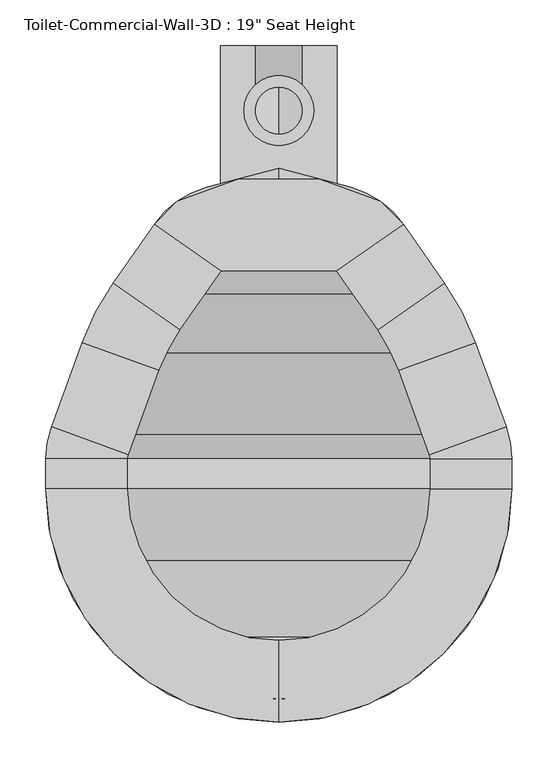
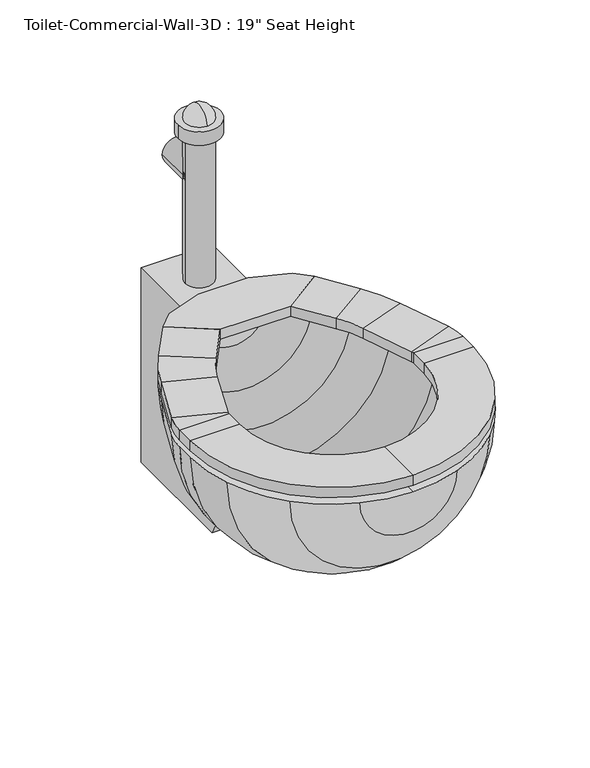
"""IFC4 building model written with IfcOpenShell, lengths in millimetres: flow terminal geometry."""

import ifcopenshell
import ifcopenshell.guid

model = None  # the IFC model being written
_history = None  # IfcOwnerHistory: only IFC2X3 demands one
_inside = {}  # id of a spatial element -> (the spatial element, [elements in it])
_under = {}  # id of a project, library or spatial element -> (it, [spatial elements below it])
_declared = {}  # id of a project -> (the project, [libraries it declares])
_typed = {}  # id of a type object -> (the type object, [elements of that type])
_made_of = {}  # id of a material, layer set ... -> (it, [elements and type objects made of it])


def new_model(schema):
    """Start an empty IFC model of exactly this schema.

    Asked for "IFC4X3", IfcOpenShell would pick the latest addendum, in which some entities
    have other attributes; the version numbers below select the first issue.
    IFC2X3 requires an IfcOwnerHistory on every rooted entity: one is made here for all.
    """
    global model, _history
    if schema == "IFC4X3":
        model = ifcopenshell.file(schema_version=(4, 3, 0, 0))
    else:
        model = ifcopenshell.file(schema=schema)
    _inside.clear()
    _under.clear()
    _declared.clear()
    _typed.clear()
    _made_of.clear()
    _history = None
    if model.schema == "IFC2X3":
        org = make("IfcOrganization", Name="unknown")
        user = make(
            "IfcPersonAndOrganization",
            ThePerson=make("IfcPerson", FamilyName="unknown"),
            TheOrganization=org,
        )
        app = make(
            "IfcApplication",
            ApplicationDeveloper=org,
            Version="unknown",
            ApplicationFullName="unknown",
            ApplicationIdentifier="unknown",
        )
        _history = make(
            "IfcOwnerHistory",
            OwningUser=user,
            OwningApplication=app,
            ChangeAction="ADDED",
            CreationDate=0,
        )
    return model


def make(cls, **values):
    """One entity of the class cls with the attributes given. An attribute that is None is left unset."""
    return model.create_entity(
        cls, **{name: value for name, value in values.items() if value is not None}
    )


def rooted(cls, **values):
    """An entity with a GlobalId (a new one), such as an element, a storey or a relation."""
    return make(cls, GlobalId=ifcopenshell.guid.new(), OwnerHistory=_history, **values)


def si_unit(unit_type, name, prefix=None):
    """IfcSIUnit, for example si_unit("LENGTHUNIT", "METRE", prefix="MILLI")."""
    return make("IfcSIUnit", UnitType=unit_type, Prefix=prefix, Name=name)


def assignment(units):
    """IfcUnitAssignment: the units of a project."""
    return None if units is None else make("IfcUnitAssignment", Units=units)


def point(xyz):
    """IfcCartesianPoint."""
    return None if xyz is None else make("IfcCartesianPoint", Coordinates=xyz)


def direction(xyz):
    """IfcDirection."""
    return None if xyz is None else make("IfcDirection", DirectionRatios=xyz)


def frame(location, z_axis=None, x_axis=None):
    """IfcAxis2Placement3D, a coordinate frame: its origin and axes. An axis left out is left unset."""
    return make(
        "IfcAxis2Placement3D",
        Location=point(location),
        Axis=direction(z_axis),
        RefDirection=direction(x_axis),
    )


def frame_2d(location, x_axis=None):
    """IfcAxis2Placement2D, a coordinate frame in the plane: its origin and x axis."""
    return make(
        "IfcAxis2Placement2D", Location=point(location), RefDirection=direction(x_axis)
    )


def origin():
    """The frame at (0, 0, 0) with its axes left unset."""
    return frame((0.0, 0.0, 0.0))


def place(relative_to, where):
    """IfcLocalPlacement: puts the frame where relative to a parent placement (None: the world)."""
    return make(
        "IfcLocalPlacement", PlacementRelTo=relative_to, RelativePlacement=where
    )


def context(
    kind, dimensions, precision=None, world=None, true_north=None, identifier=None
):
    """IfcGeometricRepresentationContext, for example the 3D "Model" context."""
    return make(
        "IfcGeometricRepresentationContext",
        ContextIdentifier=identifier,
        ContextType=kind,
        CoordinateSpaceDimension=dimensions,
        Precision=precision,
        WorldCoordinateSystem=world,
        TrueNorth=true_north,
    )


def project(units=None, contexts=None):
    """IfcProject with its units and contexts."""
    return rooted(
        "IfcProject",
        Name="project",
        RepresentationContexts=contexts,
        UnitsInContext=assignment(units),
    )


def spatial(cls, under=None, at=None, **own):
    """A site, building, storey or space (cls), placed at a placement, below another one or the project."""
    s = rooted(cls, ObjectPlacement=at, **own)
    if under is not None:
        _under.setdefault(under.id(), (under, []))[1].append(s)
    return s


def polyline(points):
    """IfcPolyline through the points."""
    return make("IfcPolyline", Points=[point(p) for p in points])


def circle_curve(where, radius):
    """IfcCircle in the frame where."""
    return make("IfcCircle", Position=where, Radius=radius)


def ellipse_curve(where, semi_axis1, semi_axis2):
    """IfcEllipse in the frame where."""
    return make(
        "IfcEllipse", Position=where, SemiAxis1=semi_axis1, SemiAxis2=semi_axis2
    )


def trimmed(basis, trim1, trim2, sense, master):
    """IfcTrimmedCurve: the piece of a basis curve between two trims."""
    return make(
        "IfcTrimmedCurve",
        BasisCurve=basis,
        Trim1=trim1,
        Trim2=trim2,
        SenseAgreement=sense,
        MasterRepresentation=master,
    )


def segment(curve, same_sense, transition):
    """IfcCompositeCurveSegment."""
    return make(
        "IfcCompositeCurveSegment",
        Transition=transition,
        SameSense=same_sense,
        ParentCurve=curve,
    )


def composite_curve(segments, self_intersect=None):
    """IfcCompositeCurve: segments joined end to end."""
    return make("IfcCompositeCurve", Segments=segments, SelfIntersect=self_intersect)


def outline(outer, holes=None, kind="AREA"):
    """IfcArbitraryClosedProfileDef: a profile drawn as a closed curve; with holes, ...WithVoids."""
    if holes is None:
        return make("IfcArbitraryClosedProfileDef", ProfileType=kind, OuterCurve=outer)
    return make(
        "IfcArbitraryProfileDefWithVoids",
        ProfileType=kind,
        OuterCurve=outer,
        InnerCurves=holes,
    )


def extrude(swept, where, along, depth):
    """IfcExtrudedAreaSolid: the profile swept, set in the frame where, extruded along a direction by depth."""
    return make(
        "IfcExtrudedAreaSolid",
        SweptArea=swept,
        Position=where,
        ExtrudedDirection=direction(along),
        Depth=depth,
    )


def shape(context_of_items, identifier, shape_type, items):
    """IfcShapeRepresentation: the items that make up one representation, for example the "Body"."""
    return make(
        "IfcShapeRepresentation",
        ContextOfItems=context_of_items,
        RepresentationIdentifier=identifier,
        RepresentationType=shape_type,
        Items=items,
    )


def source(mapping_origin, context_of_items, identifier, shape_type, items):
    """IfcRepresentationMap: a shape defined once, which mapped items show again and again."""
    return make(
        "IfcRepresentationMap",
        MappingOrigin=mapping_origin,
        MappedRepresentation=shape(context_of_items, identifier, shape_type, items),
    )


def transform(
    local_origin,
    x_axis=None,
    y_axis=None,
    z_axis=None,
    scale=None,
    scale2=None,
    scale3=None,
    uniform=True,
):
    """IfcCartesianTransformationOperator3D, or its non-uniform kind. x_axis, y_axis, z_axis: its Axis1, 2, 3."""
    if uniform:
        return make(
            "IfcCartesianTransformationOperator3D",
            Axis1=direction(x_axis),
            Axis2=direction(y_axis),
            LocalOrigin=point(local_origin),
            Scale=scale,
            Axis3=direction(z_axis),
        )
    return make(
        "IfcCartesianTransformationOperator3DnonUniform",
        Axis1=direction(x_axis),
        Axis2=direction(y_axis),
        LocalOrigin=point(local_origin),
        Scale=scale,
        Axis3=direction(z_axis),
        Scale2=scale2,
        Scale3=scale3,
    )


def mapped(mapping_source, mapping_target):
    """IfcMappedItem: shows the shape of a source again, moved by a transform."""
    return make(
        "IfcMappedItem", MappingSource=mapping_source, MappingTarget=mapping_target
    )


def made_of(thing, what):
    """Note that an element or type object is made of a material, layer set ...; save() writes the relation."""
    if what is not None:
        _made_of.setdefault(what.id(), (what, []))[1].append(thing)
    return thing


def element(
    cls,
    number,
    at=None,
    inside=None,
    cuts=None,
    type_object=None,
    material=None,
    context=None,
    identifier="Body",
    shape_type=None,
    held_by="IfcProductDefinitionShape",
    body=None,
    shapes=None,
    **own,
):
    """One element of the class cls, such as IfcWall. Its Tag is "e" and its number.

    at: its placement. inside: the storey or other place that contains it. cuts: it is an
    opening in that element (IfcRelVoidsElement). A single representation is given by context,
    identifier, shape_type and body (its items); several are given by shapes. held_by: the class
    of the entity that holds the representations. save() writes the other relations.
    """
    e = rooted(cls, Tag="e%d" % number, ObjectPlacement=at, **own)
    if body is not None:
        shapes = [shape(context, identifier, shape_type, body)]
    if shapes is not None:
        e.Representation = make(held_by, Representations=shapes)
    if inside is not None:
        _inside.setdefault(inside.id(), (inside, []))[1].append(e)
    if cuts is not None:
        rooted(
            "IfcRelVoidsElement", RelatingBuildingElement=cuts, RelatedOpeningElement=e
        )
    if type_object is not None:
        _typed.setdefault(type_object.id(), (type_object, []))[1].append(e)
    return made_of(e, material)


def aggregate(whole, parts):
    """IfcRelAggregates: a whole, such as a stair, and the parts it consists of."""
    return rooted("IfcRelAggregates", RelatingObject=whole, RelatedObjects=parts)


def save(model, path):
    """Write the relations noted so far, then the file.

    IfcRelAggregates (storeys below a building ...), IfcRelContainedInSpatialStructure (elements
    in a storey), IfcRelDefinesByType, IfcRelAssociatesMaterial and IfcRelDeclares: one each for
    every whole, place, type object, material and project.
    """
    for whole, parts in _under.values():
        aggregate(whole, parts)
    for where, things in _inside.values():
        rooted(
            "IfcRelContainedInSpatialStructure",
            RelatedElements=things,
            RelatingStructure=where,
        )
    for kind, things in _typed.values():
        rooted("IfcRelDefinesByType", RelatedObjects=things, RelatingType=kind)
    for what, things in _made_of.values():
        rooted("IfcRelAssociatesMaterial", RelatedObjects=things, RelatingMaterial=what)
    for by, libraries in _declared.values():
        rooted("IfcRelDeclares", RelatingContext=by, RelatedDefinitions=libraries)
    model.write(path)


def plane_surface(at):
    """IfcPlane: the flat surface through the origin of the frame at, square to its z axis."""
    return make("IfcPlane", Position=at)


def cylinder_surface(at, radius):
    """IfcCylindricalSurface: all points at the distance radius from the z axis of the frame at."""
    return make("IfcCylindricalSurface", Position=at, Radius=radius)


def revolved_surface(curve, axis_point, axis_direction):
    """IfcSurfaceOfRevolution: the curve turned about the line through axis_point along axis_direction."""
    return make(
        "IfcSurfaceOfRevolution",
        SweptCurve=make("IfcArbitraryOpenProfileDef", ProfileType="CURVE", Curve=curve),
        AxisPosition=make("IfcAxis1Placement", Location=point(axis_point), Axis=direction(axis_direction)),
    )


def advanced_brep(points, edges, surfaces, faces):
    """IfcAdvancedBrep: a solid bounded by faces that lie on surfaces and meet in shared edges.

    An edge is (start, end): straight between two places in points (the first is 0);
    or (start, end, curve); or (start, end, curve, False) where it runs against its curve.
    A face is (place in surfaces, loops), or (place, loops, False) where it looks against
    its surface's normal. A loop lists edges by number (the first is 1), with a minus sign
    where the edge is run from its end to its start. The first loop is the outer one.
    """
    corners = [point(p) for p in points]
    vertices = [make("IfcVertexPoint", VertexGeometry=c) for c in corners]
    made = []
    for start, end, *more in edges:
        made.append(
            make(
                "IfcEdgeCurve",
                EdgeStart=vertices[start],
                EdgeEnd=vertices[end],
                EdgeGeometry=more[0] if more else make("IfcPolyline", Points=[corners[start], corners[end]]),
                SameSense=more[1] if len(more) > 1 else True,
            )
        )
    hull = []
    for where, loops, *sense in faces:
        bounds = []
        for j, loop in enumerate(loops):
            ring = [make("IfcOrientedEdge", EdgeElement=made[abs(k) - 1], Orientation=k > 0) for k in loop]
            bounds.append(
                make(
                    "IfcFaceOuterBound" if j == 0 else "IfcFaceBound",
                    Bound=make("IfcEdgeLoop", EdgeList=ring),
                    Orientation=True,
                )
            )
        hull.append(make("IfcAdvancedFace", Bounds=bounds, FaceSurface=surfaces[where], SameSense=sense[0] if sense else True))
    return make("IfcAdvancedBrep", Outer=make("IfcClosedShell", CfsFaces=hull))


def flow_terminal_8339c4de(model_context):
    return source(origin(), model_context, "Body", "SolidModel", [
        extrude(outline(polyline([(467.7541169, -397.4347495), (342.0521907, -397.4347495), (269.229574, -346.4438043), (294.1800557, -321.4933226), (360.2423986, -297.4485961), (449.563909, -297.4485961), (515.6262519, -321.4933226), (540.5767337, -346.4438043), (467.7541169, -397.4347495)])), frame((0.0, 0.0, 457.2), z_axis=(0.0, 0.0, 1.0), x_axis=(1.0, 0.0, 0.0)), (0.0, 0.0, 1.0), 19.05),
        advanced_brep(
        [(467.7541169, -397.4347495, 457.2), (467.7541169, -397.4347495, 476.25), (540.5767337, -346.4438043, 476.25), (540.5767337, -346.4438043, 457.2), (585.6810159, -410.8593951, 457.2), (512.8583992, -461.8503403, 457.2), (585.6810159, -410.8593951, 476.25), (512.8583992, -461.8503403, 476.25), (619.360053, -475.5562234, 457.2), (535.821379, -505.9618141, 457.2), (619.360053, -475.5562234, 476.25), (535.821379, -505.9618141, 476.25), (652.7759241, -567.3655747, 457.2), (569.2372501, -597.7711654, 457.2), (652.7759241, -567.3655747, 476.25), (569.2372501, -597.7711654, 476.25), (658.9031538, -602.1148212, 457.2), (570.0031538, -602.1148212, 457.2), (658.9031538, -602.1148212, 476.25), (570.0031538, -602.1148212, 476.25), (658.9031538, -635.0, 457.2), (570.0031538, -635.0, 457.2), (658.9031538, -635.0, 476.25), (570.0031538, -635.0, 476.25), (404.9031538, -889.0, 457.2), (404.9031538, -800.1, 457.2), (404.9031538, -889.0, 476.25), (404.9031538, -800.1, 476.25), (150.9031538, -635.0, 457.2), (239.8031538, -635.0, 457.2), (150.9031538, -635.0, 476.25), (239.8031538, -635.0, 476.25), (150.9031538, -602.1148212, 457.2), (239.8031538, -602.1148212, 457.2), (150.9031538, -602.1148212, 476.25), (239.8031538, -602.1148212, 476.25), (157.0303835, -567.3655747, 457.2), (240.5690575, -597.7711654, 457.2), (157.0303835, -567.3655747, 476.25), (240.5690575, -597.7711654, 476.25), (190.4462546, -475.5562234, 457.2), (273.9849286, -505.9618141, 457.2), (190.4462546, -475.5562234, 476.25), (273.9849286, -505.9618141, 476.25), (224.1252917, -410.8593951, 457.2), (296.9479084, -461.8503403, 457.2), (224.1252917, -410.8593951, 476.25), (296.9479084, -461.8503403, 476.25), (342.0521907, -397.4347495, 457.2), (269.229574, -346.4438043, 457.2), (269.229574, -346.4438043, 476.25), (342.0521907, -397.4347495, 476.25)],
        [
            (0, 1),
            (1, 2),
            (2, 3),
            (3, 0),
            (3, 4),
            (4, 5),
            (5, 0),
            (2, 6),
            (6, 4),
            (1, 7),
            (7, 6),
            (5, 7),
            (8, 9),
            (9, 5, circle_curve(frame((356.8099347, -571.1166514, 457.2), z_axis=(0.0, 0.0, 1.0), x_axis=(0.81915204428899, 0.5735764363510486, 0.0)), 190.5)),
            (4, 8, circle_curve(frame((356.8099347, -571.1166514, 457.2), z_axis=(0.0, 0.0, -1.0), x_axis=(0.81915204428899, 0.5735764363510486, 0.0)), 279.4)),
            (10, 8),
            (6, 10, circle_curve(frame((356.8099347, -571.1166514, 476.25), z_axis=(0.0, 0.0, -1.0), x_axis=(0.81915204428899, 0.5735764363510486, 0.0)), 279.4)),
            (11, 10),
            (7, 11, circle_curve(frame((356.8099347, -571.1166514, 476.25), z_axis=(0.0, 0.0, -1.0), x_axis=(0.81915204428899, 0.5735764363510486, 0.0)), 190.5)),
            (9, 11),
            (8, 12),
            (12, 13),
            (13, 9),
            (10, 14),
            (14, 12),
            (11, 15),
            (15, 14),
            (13, 15),
            (16, 17),
            (17, 13, circle_curve(frame((557.3031538, -602.1148212, 457.2), z_axis=(0.0, 0.0, 1.0), x_axis=(0.9396926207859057, 0.3420201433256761, 0.0)), 12.7)),
            (12, 16, circle_curve(frame((557.3031538, -602.1148212, 457.2), z_axis=(0.0, 0.0, -1.0), x_axis=(0.9396926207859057, 0.3420201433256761, 0.0)), 101.6)),
            (18, 16),
            (14, 18, circle_curve(frame((557.3031538, -602.1148212, 476.25), z_axis=(0.0, 0.0, -1.0), x_axis=(0.9396926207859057, 0.3420201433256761, 0.0)), 101.6)),
            (19, 18),
            (15, 19, circle_curve(frame((557.3031538, -602.1148212, 476.25), z_axis=(0.0, 0.0, -1.0), x_axis=(0.9396926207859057, 0.3420201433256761, 0.0)), 12.7)),
            (17, 19),
            (16, 20),
            (20, 21),
            (21, 17),
            (18, 22),
            (22, 20),
            (19, 23),
            (23, 22),
            (21, 23),
            (24, 25),
            (25, 21, circle_curve(frame((404.9031538, -635.0, 457.2), z_axis=(0.0, 0.0, 1.0), x_axis=(1.0, 0.0, 0.0)), 165.1)),
            (20, 24, circle_curve(frame((404.9031538, -635.0, 457.2), z_axis=(0.0, 0.0, -1.0), x_axis=(1.0, 0.0, 0.0)), 254.0)),
            (26, 24),
            (22, 26, circle_curve(frame((404.9031538, -635.0, 476.25), z_axis=(0.0, 0.0, -1.0), x_axis=(1.0, 0.0, 0.0)), 254.0)),
            (27, 26),
            (23, 27, circle_curve(frame((404.9031538, -635.0, 476.25), z_axis=(0.0, 0.0, -1.0), x_axis=(1.0, 0.0, 0.0)), 165.1)),
            (25, 27),
            (28, 29),
            (29, 25, circle_curve(frame((404.9031538, -635.0, 457.2), z_axis=(0.0, 0.0, 1.0), x_axis=(0.0, -1.0, 0.0)), 165.1)),
            (24, 28, circle_curve(frame((404.9031538, -635.0, 457.2), z_axis=(0.0, 0.0, -1.0), x_axis=(0.0, -1.0, 0.0)), 254.0)),
            (30, 28),
            (26, 30, circle_curve(frame((404.9031538, -635.0, 476.25), z_axis=(0.0, 0.0, -1.0), x_axis=(0.0, -1.0, 0.0)), 254.0)),
            (31, 30),
            (27, 31, circle_curve(frame((404.9031538, -635.0, 476.25), z_axis=(0.0, 0.0, -1.0), x_axis=(0.0, -1.0, 0.0)), 165.1)),
            (29, 31),
            (28, 32),
            (32, 33),
            (33, 29),
            (30, 34),
            (34, 32),
            (31, 35),
            (35, 34),
            (33, 35),
            (36, 37),
            (37, 33, circle_curve(frame((252.5031538, -602.1148212, 457.2), z_axis=(0.0, 0.0, 1.0), x_axis=(-1.0, 0.0, 0.0)), 12.7)),
            (32, 36, circle_curve(frame((252.5031538, -602.1148212, 457.2), z_axis=(0.0, 0.0, -1.0), x_axis=(-1.0, 0.0, 0.0)), 101.6)),
            (38, 36),
            (34, 38, circle_curve(frame((252.5031538, -602.1148212, 476.25), z_axis=(0.0, 0.0, -1.0), x_axis=(-1.0, 0.0, 0.0)), 101.6)),
            (39, 38),
            (35, 39, circle_curve(frame((252.5031538, -602.1148212, 476.25), z_axis=(0.0, 0.0, -1.0), x_axis=(-1.0, 0.0, 0.0)), 12.7)),
            (37, 39),
            (36, 40),
            (40, 41),
            (41, 37),
            (38, 42),
            (42, 40),
            (39, 43),
            (43, 42),
            (41, 43),
            (44, 45),
            (45, 41, circle_curve(frame((452.9963729, -571.1166514, 457.2), z_axis=(0.0, 0.0, 1.0), x_axis=(-0.939692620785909, 0.3420201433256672, 0.0)), 190.5)),
            (40, 44, circle_curve(frame((452.9963729, -571.1166514, 457.2), z_axis=(0.0, 0.0, -1.0), x_axis=(-0.939692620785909, 0.3420201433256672, 0.0)), 279.4)),
            (46, 44),
            (42, 46, circle_curve(frame((452.9963729, -571.1166514, 476.25), z_axis=(0.0, 0.0, -1.0), x_axis=(-0.939692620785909, 0.3420201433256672, 0.0)), 279.4)),
            (47, 46),
            (43, 47, circle_curve(frame((452.9963729, -571.1166514, 476.25), z_axis=(0.0, 0.0, -1.0), x_axis=(-0.939692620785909, 0.3420201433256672, 0.0)), 190.5)),
            (45, 47),
            (48, 49),
            (49, 50),
            (50, 51),
            (51, 48),
            (44, 49),
            (48, 45),
            (46, 50),
            (47, 51),
        ],
        [
            plane_surface(frame((540.5767337, -346.4438043, 538.8995365), z_axis=(-0.5735764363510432, 0.8191520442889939, 0.0), x_axis=(0.8191520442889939, 0.5735764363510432, 0.0))),
            plane_surface(frame((467.7541169, -397.4347495, 457.2), z_axis=(0.0, 0.0, -1.0), x_axis=(0.5735764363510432, -0.8191520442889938, 0.0))),
            plane_surface(frame((540.5767337, -346.4438043, 457.2), z_axis=(0.8191520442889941, 0.5735764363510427, 0.0), x_axis=(0.5735764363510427, -0.8191520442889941, 0.0))),
            plane_surface(frame((540.5767337, -346.4438043, 476.25), z_axis=(0.0, 0.0, 1.0), x_axis=(0.5735764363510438, -0.8191520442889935, 0.0))),
            plane_surface(frame((467.7541169, -397.4347495, 476.25), z_axis=(-0.8191520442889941, -0.5735764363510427, 0.0), x_axis=(0.5735764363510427, -0.8191520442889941, 0.0))),
            plane_surface(frame((356.8099347, -571.1166514, 457.2), z_axis=(0.0, 0.0, -1.0), x_axis=(0.81915204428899, 0.5735764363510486, 0.0))),
            cylinder_surface(frame((356.8099347, -571.1166514, 444.5), z_axis=(0.0, 0.0, 1.0), x_axis=(0.81915204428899, 0.5735764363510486, 0.0)), 279.4),
            plane_surface(frame((356.8099347, -571.1166514, 476.25), z_axis=(0.0, 0.0, 1.0), x_axis=(0.81915204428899, 0.5735764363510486, 0.0))),
            revolved_surface(polyline([(512.8583991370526, -461.8503402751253, 476.25), (512.8583991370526, -461.8503402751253, 457.2)]), (356.8099347, -571.1166514, 444.5), (0.0, 0.0, 1.0)),
            plane_surface(frame((535.821379, -505.9618141, 457.2), z_axis=(0.0, 0.0, -1.0000000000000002), x_axis=(0.3420201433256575, -0.9396926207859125, 0.0))),
            plane_surface(frame((619.360053, -475.5562234, 457.2), z_axis=(0.9396926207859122, 0.34202014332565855, 0.0), x_axis=(0.34202014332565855, -0.9396926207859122, 0.0))),
            plane_surface(frame((619.360053, -475.5562234, 476.25), z_axis=(0.0, 0.0, 1.0000000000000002), x_axis=(0.34202014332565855, -0.9396926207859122, 0.0))),
            plane_surface(frame((535.821379, -505.9618141, 476.25), z_axis=(-0.9396926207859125, -0.3420201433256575, 0.0), x_axis=(0.3420201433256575, -0.9396926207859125, 0.0))),
            plane_surface(frame((557.3031538, -602.1148212, 457.2), z_axis=(0.0, 0.0, -1.0000000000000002), x_axis=(0.9396926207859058, 0.34202014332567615, 0.0))),
            cylinder_surface(frame((557.3031538, -602.1148212, 444.5), z_axis=(0.0, 0.0, 1.0), x_axis=(0.9396926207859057, 0.3420201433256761, 0.0)), 101.6),
            plane_surface(frame((557.3031538, -602.1148212, 476.25), z_axis=(0.0, 0.0, 1.0000000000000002), x_axis=(0.9396926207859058, 0.34202014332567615, 0.0))),
            revolved_surface(polyline([(569.237250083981, -597.7711653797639, 476.25), (569.237250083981, -597.7711653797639, 457.2)]), (557.3031538, -602.1148212, 444.5), (0.0, 0.0, 1.0)),
            plane_surface(frame((570.0031538, -602.1148212, 457.2), z_axis=(0.0, 0.0, -1.0), x_axis=(0.0, -1.0, 0.0))),
            plane_surface(frame((658.9031538, -602.1148212, 457.2), z_axis=(1.0, 0.0, 0.0), x_axis=(0.0, -1.0, 0.0))),
            plane_surface(frame((658.9031538, -602.1148212, 476.25), z_axis=(0.0, 0.0, 1.0), x_axis=(0.0, -1.0, 0.0))),
            plane_surface(frame((570.0031538, -602.1148212, 476.25), z_axis=(-1.0, 0.0, 0.0), x_axis=(0.0, -1.0, 0.0))),
            plane_surface(frame((404.9031538, -635.0, 457.2), z_axis=(0.0, 0.0, -1.0), x_axis=(1.0, 0.0, 0.0))),
            cylinder_surface(frame((404.9031538, -635.0, 444.5), z_axis=(0.0, 0.0, 1.0), x_axis=(1.0, 0.0, 0.0)), 254.0),
            plane_surface(frame((404.9031538, -635.0, 476.25), z_axis=(0.0, 0.0, 1.0), x_axis=(1.0, 0.0, 0.0))),
            revolved_surface(polyline([(570.0031538, -635.0, 476.25), (570.0031538, -635.0, 457.2)]), (404.9031538, -635.0, 444.5), (0.0, 0.0, 1.0)),
            plane_surface(frame((404.9031538, -635.0, 457.2), z_axis=(0.0, 0.0, -1.0), x_axis=(0.0, -1.0, 0.0))),
            cylinder_surface(frame((404.9031538, -635.0, 444.5), z_axis=(0.0, 0.0, 1.0), x_axis=(0.0, -1.0, 0.0)), 254.0),
            plane_surface(frame((404.9031538, -635.0, 476.25), z_axis=(0.0, 0.0, 1.0), x_axis=(0.0, -1.0, 0.0))),
            revolved_surface(polyline([(404.9031538, -800.1, 476.25), (404.9031538, -800.1, 457.2)]), (404.9031538, -635.0, 444.5), (0.0, 0.0, 1.0)),
            plane_surface(frame((239.8031538, -635.0, 457.2), z_axis=(0.0, 0.0, -1.0), x_axis=(0.0, 1.0, 0.0))),
            plane_surface(frame((150.9031538, -635.0, 457.2), z_axis=(-1.0, 0.0, 0.0), x_axis=(0.0, 1.0, 0.0))),
            plane_surface(frame((150.9031538, -635.0, 476.25), z_axis=(0.0, 0.0, 1.0), x_axis=(0.0, 1.0, 0.0))),
            plane_surface(frame((239.8031538, -635.0, 476.25), z_axis=(1.0, 0.0, 0.0), x_axis=(0.0, 1.0, 0.0))),
            plane_surface(frame((252.5031538, -602.1148212, 457.2), z_axis=(0.0, 0.0, -1.0), x_axis=(-1.0, 0.0, 0.0))),
            cylinder_surface(frame((252.5031538, -602.1148212, 444.5), z_axis=(0.0, 0.0, 1.0), x_axis=(-1.0, 0.0, 0.0)), 101.6),
            plane_surface(frame((252.5031538, -602.1148212, 476.25), z_axis=(0.0, 0.0, 1.0), x_axis=(-1.0, 0.0, 0.0))),
            revolved_surface(polyline([(239.80315380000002, -602.1148212, 476.25), (239.80315380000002, -602.1148212, 457.2)]), (252.5031538, -602.1148212, 444.5), (0.0, 0.0, 1.0)),
            plane_surface(frame((240.5690575, -597.7711654, 457.2), z_axis=(0.0, 0.0, -1.0000000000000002), x_axis=(0.3420201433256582, 0.9396926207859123, 0.0))),
            plane_surface(frame((157.0303835, -567.3655747, 457.2), z_axis=(-0.9396926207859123, 0.3420201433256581, 0.0), x_axis=(0.3420201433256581, 0.9396926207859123, 0.0))),
            plane_surface(frame((157.0303835, -567.3655747, 476.25), z_axis=(0.0, 0.0, 1.0000000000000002), x_axis=(0.3420201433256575, 0.9396926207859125, 0.0))),
            plane_surface(frame((240.5690575, -597.7711654, 476.25), z_axis=(0.9396926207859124, -0.3420201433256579, 0.0), x_axis=(0.3420201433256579, 0.9396926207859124, 0.0))),
            plane_surface(frame((452.9963729, -571.1166514, 457.2), z_axis=(0.0, 0.0, -1.0), x_axis=(-0.939692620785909, 0.3420201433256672, 0.0))),
            cylinder_surface(frame((452.9963729, -571.1166514, 444.5), z_axis=(0.0, 0.0, 1.0), x_axis=(-0.939692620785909, 0.3420201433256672, 0.0)), 279.4),
            plane_surface(frame((452.9963729, -571.1166514, 476.25), z_axis=(0.0, 0.0, 1.0), x_axis=(-0.939692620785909, 0.3420201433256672, 0.0))),
            revolved_surface(polyline([(273.98492864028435, -505.96181409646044, 476.25), (273.98492864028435, -505.96181409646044, 457.2)]), (452.9963729, -571.1166514, 444.5), (0.0, 0.0, 1.0)),
            plane_surface(frame((269.229574, -346.4438043, 350.1004635), z_axis=(0.5735764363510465, 0.8191520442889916, 0.0), x_axis=(0.8191520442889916, -0.5735764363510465, 0.0))),
            plane_surface(frame((296.9479084, -461.8503403, 457.2), z_axis=(0.0, 0.0, -1.0), x_axis=(0.5735764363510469, 0.8191520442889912, 0.0))),
            plane_surface(frame((224.1252917, -410.8593951, 457.2), z_axis=(-0.8191520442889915, 0.5735764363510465, 0.0), x_axis=(0.5735764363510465, 0.8191520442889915, 0.0))),
            plane_surface(frame((224.1252917, -410.8593951, 476.25), z_axis=(0.0, 0.0, 1.0000000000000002), x_axis=(0.5735764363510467, 0.8191520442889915, 0.0))),
            plane_surface(frame((296.9479084, -461.8503403, 476.25), z_axis=(0.8191520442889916, -0.5735764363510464, 0.0), x_axis=(0.5735764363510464, 0.8191520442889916, 0.0))),
        ],
        [
            (0, [[1, 2, 3, 4]]),
            (1, [[5, 6, 7, -4]]),
            (2, [[8, 9, -5, -3]]),
            (3, [[10, 11, -8, -2]]),
            (4, [[-7, 12, -10, -1]]),
            (5, [[13, 14, -6, 15]]),
            (6, [[16, -15, -9, 17]]),
            (7, [[18, -17, -11, 19]]),
            (8, [[20, -19, -12, -14]]),
            (9, [[21, 22, 23, -13]]),
            (10, [[24, 25, -21, -16]]),
            (11, [[26, 27, -24, -18]]),
            (12, [[-23, 28, -26, -20]]),
            (13, [[29, 30, -22, 31]]),
            (14, [[32, -31, -25, 33]]),
            (15, [[34, -33, -27, 35]]),
            (16, [[36, -35, -28, -30]]),
            (17, [[37, 38, 39, -29]]),
            (18, [[40, 41, -37, -32]]),
            (19, [[42, 43, -40, -34]]),
            (20, [[-39, 44, -42, -36]]),
            (21, [[45, 46, -38, 47]]),
            (22, [[48, -47, -41, 49]]),
            (23, [[50, -49, -43, 51]]),
            (24, [[52, -51, -44, -46]]),
            (25, [[53, 54, -45, 55]]),
            (26, [[56, -55, -48, 57]]),
            (27, [[58, -57, -50, 59]]),
            (28, [[60, -59, -52, -54]]),
            (29, [[61, 62, 63, -53]]),
            (30, [[64, 65, -61, -56]]),
            (31, [[66, 67, -64, -58]]),
            (32, [[-63, 68, -66, -60]]),
            (33, [[69, 70, -62, 71]]),
            (34, [[72, -71, -65, 73]]),
            (35, [[74, -73, -67, 75]]),
            (36, [[76, -75, -68, -70]]),
            (37, [[77, 78, 79, -69]]),
            (38, [[80, 81, -77, -72]]),
            (39, [[82, 83, -80, -74]]),
            (40, [[-79, 84, -82, -76]]),
            (41, [[85, 86, -78, 87]]),
            (42, [[88, -87, -81, 89]]),
            (43, [[90, -89, -83, 91]]),
            (44, [[92, -91, -84, -86]]),
            (45, [[93, 94, 95, 96]]),
            (46, [[97, -93, 98, -85]]),
            (47, [[99, -94, -97, -88]]),
            (48, [[100, -95, -99, -90]]),
            (49, [[-98, -96, -100, -92]]),
        ],
    ),
        advanced_brep(
        [(491.7762702, -873.6819257, 444.5), (584.5082762, -814.6051224, 444.5), (643.5850795, -721.8731164, 444.5), (658.9031538, -635.0, 444.5), (658.9031538, -602.1148212, 444.5), (652.7759241, -567.3655747, 444.5), (619.360053, -475.5562234, 444.5), (585.6810159, -410.8593951, 444.5), (540.5767337, -346.4438043, 444.5), (483.6469009, -306.5811063, 444.5), (404.9031538, -285.4817829, 444.5), (404.9031538, -311.7777978, 444.5), (468.1430637, -328.7228806, 444.5), (525.0728964, -368.5855786, 444.5), (562.9565296, -422.6890139, 444.5), (596.6355667, -487.3858422, 444.5), (628.9077315, -576.0528863, 444.5), (633.5031538, -602.1148212, 444.5), (633.5031538, -635.0, 444.5), (619.7168869, -713.1858048, 444.5), (566.547764, -796.6446102, 444.5), (483.0889586, -849.8137331, 444.5), (404.9031538, -863.6, 444.5), (404.9031538, -889.0, 444.5), (318.0300374, -873.6819257, 444.5), (326.7173491, -849.8137331, 444.5), (243.2585436, -796.6446102, 444.5), (190.0894207, -713.1858048, 444.5), (176.3031538, -635.0, 444.5), (176.3031538, -602.1148212, 444.5), (180.8985761, -576.0528863, 444.5), (213.1707409, -487.3858422, 444.5), (246.849778, -422.6890139, 444.5), (284.7334112, -368.5855786, 444.5), (341.663244, -328.7228806, 444.5), (326.1594067, -306.5811063, 444.5), (269.229574, -346.4438043, 444.5), (224.1252917, -410.8593951, 444.5), (190.4462546, -475.5562234, 444.5), (157.0303835, -567.3655747, 444.5), (150.9031538, -602.1148212, 444.5), (150.9031538, -635.0, 444.5), (166.2212281, -721.8731164, 444.5), (225.2980314, -814.6051224, 444.5)],
        [
            (0, 1, circle_curve(frame((404.9031538, -635.0, 444.5), z_axis=(0.0, 0.0, 1.0), x_axis=(1.0, 0.0, 0.0)), 254.0)),
            (1, 2, circle_curve(frame((404.9031538, -635.0, 444.5), z_axis=(0.0, 0.0, 1.0), x_axis=(1.0, 0.0, 0.0)), 254.0)),
            (2, 3, circle_curve(frame((404.9031538, -635.0, 444.5), z_axis=(0.0, 0.0, 1.0), x_axis=(1.0, 0.0, 0.0)), 254.0)),
            (3, 4),
            (4, 5, circle_curve(frame((557.3031538, -602.1148212, 444.5), z_axis=(0.0, 0.0, 1.0), x_axis=(1.0, 0.0, 0.0)), 101.6)),
            (5, 6),
            (6, 7, circle_curve(frame((356.8099347, -571.1166514, 444.5), z_axis=(0.0, 0.0, 1.0), x_axis=(1.0, 0.0, 0.0)), 279.4)),
            (7, 8),
            (8, 9, circle_curve(frame((457.350886, -404.7191703, 444.5), z_axis=(0.0, 0.0, 1.0), x_axis=(1.0, 0.0, 0.0)), 101.6)),
            (9, 10),
            (10, 11),
            (11, 12),
            (12, 13, circle_curve(frame((441.8470487, -426.8609446, 444.5), z_axis=(0.0, 0.0, -1.0), x_axis=(1.0, 0.0, 0.0)), 101.6)),
            (13, 14),
            (14, 15, circle_curve(frame((334.0854485, -582.9462703, 444.5), z_axis=(0.0, 0.0, -1.0), x_axis=(1.0, 0.0, 0.0)), 279.4)),
            (15, 16),
            (16, 17, circle_curve(frame((557.3031538, -602.1148212, 444.5), z_axis=(0.0, 0.0, -1.0), x_axis=(1.0, 0.0, 0.0)), 76.2)),
            (17, 18),
            (18, 19, circle_curve(frame((404.9031538, -635.0, 444.5), z_axis=(0.0, 0.0, -1.0), x_axis=(1.0, 0.0, 0.0)), 228.6)),
            (19, 20, circle_curve(frame((404.9031538, -635.0, 444.5), z_axis=(0.0, 0.0, -1.0), x_axis=(1.0, 0.0, 0.0)), 228.6)),
            (20, 21, circle_curve(frame((404.9031538, -635.0, 444.5), z_axis=(0.0, 0.0, -1.0), x_axis=(1.0, 0.0, 0.0)), 228.6)),
            (21, 22, circle_curve(frame((404.9031538, -635.0, 444.5), z_axis=(0.0, 0.0, -1.0), x_axis=(1.0, 0.0, 0.0)), 228.6)),
            (22, 23),
            (23, 0, circle_curve(frame((404.9031538, -635.0, 444.5), z_axis=(0.0, 0.0, 1.0), x_axis=(1.0, 0.0, 0.0)), 254.0)),
            (24, 23, circle_curve(frame((404.9031538, -635.0, 444.5), z_axis=(0.0, 0.0, 1.0), x_axis=(-1.0, 0.0, 0.0)), 254.0)),
            (22, 25, circle_curve(frame((404.9031538, -635.0, 444.5), z_axis=(0.0, 0.0, -1.0), x_axis=(-1.0, 0.0, 0.0)), 228.6)),
            (25, 26, circle_curve(frame((404.9031538, -635.0, 444.5), z_axis=(0.0, 0.0, -1.0), x_axis=(-1.0, 0.0, 0.0)), 228.6)),
            (26, 27, circle_curve(frame((404.9031538, -635.0, 444.5), z_axis=(0.0, 0.0, -1.0), x_axis=(-1.0, 0.0, 0.0)), 228.6)),
            (27, 28, circle_curve(frame((404.9031538, -635.0, 444.5), z_axis=(0.0, 0.0, -1.0), x_axis=(-1.0, 0.0, 0.0)), 228.6)),
            (28, 29),
            (29, 30, circle_curve(frame((252.5031538, -602.1148212, 444.5), z_axis=(0.0, 0.0, -1.0), x_axis=(-1.0, 0.0, 0.0)), 76.2)),
            (30, 31),
            (31, 32, circle_curve(frame((475.7208592, -582.9462703, 444.5), z_axis=(0.0, 0.0, -1.0), x_axis=(-1.0, 0.0, 0.0)), 279.4)),
            (32, 33),
            (33, 34, circle_curve(frame((367.9592589, -426.8609446, 444.5), z_axis=(0.0, 0.0, -1.0), x_axis=(-1.0, 0.0, 0.0)), 101.6)),
            (34, 11),
            (10, 35),
            (35, 36, circle_curve(frame((352.4554217, -404.7191703, 444.5), z_axis=(0.0, 0.0, 1.0), x_axis=(-1.0, 0.0, 0.0)), 101.6)),
            (36, 37),
            (37, 38, circle_curve(frame((452.9963729, -571.1166514, 444.5), z_axis=(0.0, 0.0, 1.0), x_axis=(-1.0, 0.0, 0.0)), 279.4)),
            (38, 39),
            (39, 40, circle_curve(frame((252.5031538, -602.1148212, 444.5), z_axis=(0.0, 0.0, 1.0), x_axis=(-1.0, 0.0, 0.0)), 101.6)),
            (40, 41),
            (41, 42, circle_curve(frame((404.9031538, -635.0, 444.5), z_axis=(0.0, 0.0, 1.0), x_axis=(-1.0, 0.0, 0.0)), 254.0)),
            (42, 43, circle_curve(frame((404.9031538, -635.0, 444.5), z_axis=(0.0, 0.0, 1.0), x_axis=(-1.0, 0.0, 0.0)), 254.0)),
            (43, 24, circle_curve(frame((404.9031538, -635.0, 444.5), z_axis=(0.0, 0.0, 1.0), x_axis=(-1.0, 0.0, 0.0)), 254.0)),
            (24, 0, circle_curve(frame((404.9031538, -873.6819257, 444.5), z_axis=(0.0, -1.0, 0.0), x_axis=(1.0, 0.0, 0.0)), 86.8731164)),
            (21, 25, circle_curve(frame((404.9031538, -849.8137331, 444.5), z_axis=(0.0, 1.0, 0.0), x_axis=(1.0, 0.0, 0.0)), 78.1858048)),
            (20, 26, circle_curve(frame((404.9031538, -796.6446102, 444.5), z_axis=(0.0, 1.0, 0.0), x_axis=(1.0, 0.0, 0.0)), 161.6446102)),
            (19, 27, circle_curve(frame((404.9031538, -713.1858048, 444.5), z_axis=(0.0, 1.0, 0.0), x_axis=(1.0, 0.0, 0.0)), 214.8137331)),
            (18, 28, circle_curve(frame((404.9031538, -635.0, 444.5), z_axis=(0.0, 1.0, 0.0), x_axis=(1.0, 0.0, 0.0)), 228.6)),
            (17, 29, circle_curve(frame((404.9031538, -602.1148212, 444.5), z_axis=(0.0, 1.0, 0.0), x_axis=(1.0, 0.0, 0.0)), 228.6)),
            (16, 30, circle_curve(frame((404.9031538, -576.0528863, 444.5), z_axis=(0.0, 1.0, 0.0), x_axis=(1.0, 0.0, 0.0)), 224.0045777)),
            (15, 31, circle_curve(frame((404.9031538, -487.3858422, 444.5), z_axis=(0.0, 1.0, 0.0), x_axis=(1.0, 0.0, 0.0)), 191.7324129)),
            (14, 32, circle_curve(frame((404.9031538, -422.6890139, 444.5), z_axis=(0.0, 1.0, 0.0), x_axis=(1.0, 0.0, 0.0)), 158.0533758)),
            (13, 33, circle_curve(frame((404.9031538, -368.5855786, 444.5), z_axis=(0.0, 1.0, 0.0), x_axis=(1.0, 0.0, 0.0)), 120.1697426)),
            (12, 34, circle_curve(frame((404.9031538, -328.7228806, 444.5), z_axis=(0.0, 1.0, 0.0), x_axis=(1.0, 0.0, 0.0)), 63.2399099)),
            (9, 35, circle_curve(frame((404.9031538, -306.5811063, 444.5), z_axis=(0.0, 1.0, 0.0), x_axis=(1.0, 0.0, 0.0)), 78.7437471)),
            (8, 36, circle_curve(frame((404.9031538, -346.4438043, 444.5), z_axis=(0.0, 1.0, 0.0), x_axis=(1.0, 0.0, 0.0)), 135.6735798)),
            (7, 37, circle_curve(frame((404.9031538, -410.8593951, 444.5), z_axis=(0.0, 1.0, 0.0), x_axis=(1.0, 0.0, 0.0)), 180.7778621)),
            (6, 38, circle_curve(frame((404.9031538, -475.5562234, 444.5), z_axis=(0.0, 1.0, 0.0), x_axis=(1.0, 0.0, 0.0)), 214.4568992)),
            (5, 39, circle_curve(frame((404.9031538, -567.3655747, 444.5), z_axis=(0.0, 1.0, 0.0), x_axis=(1.0, 0.0, 0.0)), 247.8727703)),
            (4, 40, circle_curve(frame((404.9031538, -602.1148212, 444.5), z_axis=(0.0, 1.0, 0.0), x_axis=(1.0, 0.0, 0.0)), 254.0)),
            (3, 41, circle_curve(frame((404.9031538, -635.0, 444.5), z_axis=(0.0, 1.0, 0.0), x_axis=(1.0, 0.0, 0.0)), 254.0)),
            (2, 42, circle_curve(frame((404.9031538, -721.8731164, 444.5), z_axis=(0.0, 1.0, 0.0), x_axis=(1.0, 0.0, 0.0)), 238.6819257)),
            (1, 43, circle_curve(frame((404.9031538, -814.6051224, 444.5), z_axis=(0.0, 1.0, 0.0), x_axis=(1.0, 0.0, 0.0)), 179.6051224)),
        ],
        [
            plane_surface(frame((404.9031538, -994.2102448, 444.5), z_axis=(0.0, 0.0, 1.0), x_axis=(1.0, 0.0, 0.0))),
            plane_surface(frame((404.9031538, -994.2102448, 444.5), z_axis=(0.0, 0.0, 1.0), x_axis=(-1.0, 0.0, 0.0))),
            revolved_surface(trimmed(ellipse_curve(frame((404.9031538, -635.0, 444.5), z_axis=(0.0, 0.0, -1.0), x_axis=(1.0, 0.0, 0.0)), 254.0, 254.0), [point((491.7762702, -873.6819257, 444.5))], [point((404.9031538, -889.0, 444.5))], True, "CARTESIAN"), (404.9031538, -994.2102448, 444.5), (0.0, -1.0, 0.0)),
            revolved_surface(trimmed(ellipse_curve(frame((404.9031538, -635.0, 444.5), z_axis=(0.0, 0.0, 1.0), x_axis=(1.0, 0.0, 0.0)), 228.6, 228.6), [point((404.9031538, -863.6, 444.5))], [point((483.0889586, -849.8137331, 444.5))], True, "CARTESIAN"), (404.9031538, -994.2102448, 444.5), (0.0, -1.0, 0.0)),
            revolved_surface(trimmed(ellipse_curve(frame((404.9031538, -635.0, 444.5), z_axis=(0.0, 0.0, 1.0), x_axis=(1.0, 0.0, 0.0)), 228.6, 228.6), [point((483.0889586, -849.8137331, 444.5))], [point((566.547764, -796.6446102, 444.5))], True, "CARTESIAN"), (404.9031538, -994.2102448, 444.5), (0.0, -1.0, 0.0)),
            revolved_surface(trimmed(ellipse_curve(frame((404.9031538, -635.0, 444.5), z_axis=(0.0, 0.0, 1.0), x_axis=(1.0, 0.0, 0.0)), 228.6, 228.6), [point((566.547764, -796.6446102, 444.5))], [point((619.7168869, -713.1858048, 444.5))], True, "CARTESIAN"), (404.9031538, -994.2102448, 444.5), (0.0, -1.0, 0.0)),
            revolved_surface(trimmed(ellipse_curve(frame((404.9031538, -635.0, 444.5), z_axis=(0.0, 0.0, 1.0), x_axis=(1.0, 0.0, 0.0)), 228.6, 228.6), [point((619.7168869, -713.1858048, 444.5))], [point((633.5031538, -635.0, 444.5))], True, "CARTESIAN"), (404.9031538, -994.2102448, 444.5), (0.0, -1.0, 0.0)),
            revolved_surface(polyline([(633.5031538, -635.0, 444.5), (633.5031538, -602.1148212, 444.5)]), (404.9031538, -994.2102448, 444.5), (0.0, -1.0, 0.0)),
            revolved_surface(trimmed(ellipse_curve(frame((557.3031538, -602.1148212, 444.5), z_axis=(0.0, 0.0, 1.0), x_axis=(1.0, 0.0, 0.0)), 76.2, 76.2), [point((633.5031538, -602.1148212, 444.5))], [point((628.9077315, -576.0528863, 444.5))], True, "CARTESIAN"), (404.9031538, -994.2102448, 444.5), (0.0, -1.0, 0.0)),
            revolved_surface(polyline([(628.9077315, -576.0528863, 444.5), (596.6355667, -487.3858422, 444.5)]), (404.9031538, -994.2102448, 444.5), (0.0, -1.0, 0.0)),
            revolved_surface(trimmed(ellipse_curve(frame((334.0854485, -582.9462703, 444.5), z_axis=(0.0, 0.0, 1.0), x_axis=(1.0, 0.0, 0.0)), 279.4, 279.4), [point((596.6355667, -487.3858422, 444.5))], [point((562.9565296, -422.6890139, 444.5))], True, "CARTESIAN"), (404.9031538, -994.2102448, 444.5), (0.0, -1.0, 0.0)),
            revolved_surface(polyline([(562.9565296, -422.6890139, 444.5), (525.0728964, -368.5855786, 444.5)]), (404.9031538, -994.2102448, 444.5), (0.0, -1.0, 0.0)),
            revolved_surface(trimmed(ellipse_curve(frame((441.8470487, -426.8609446, 444.5), z_axis=(0.0, 0.0, 1.0), x_axis=(1.0, 0.0, 0.0)), 101.6, 101.6), [point((525.0728964, -368.5855786, 444.5))], [point((468.1430637, -328.7228806, 444.5))], True, "CARTESIAN"), (404.9031538, -994.2102448, 444.5), (0.0, -1.0, 0.0)),
            revolved_surface(polyline([(468.1430637, -328.7228806, 444.5), (404.9031538, -311.7777978, 444.5)]), (404.9031538, -994.2102448, 444.5), (0.0, -1.0, 0.0)),
            revolved_surface(polyline([(404.9031538, -285.4817829, 444.5), (483.6469009, -306.5811063, 444.5)]), (404.9031538, -994.2102448, 444.5), (0.0, -1.0, 0.0)),
            revolved_surface(trimmed(ellipse_curve(frame((457.350886, -404.7191703, 444.5), z_axis=(0.0, 0.0, -1.0), x_axis=(1.0, 0.0, 0.0)), 101.6, 101.6), [point((483.6469009, -306.5811063, 444.5))], [point((540.5767337, -346.4438043, 444.5))], True, "CARTESIAN"), (404.9031538, -994.2102448, 444.5), (0.0, -1.0, 0.0)),
            revolved_surface(polyline([(540.5767337, -346.4438043, 444.5), (585.6810159, -410.8593951, 444.5)]), (404.9031538, -994.2102448, 444.5), (0.0, -1.0, 0.0)),
            revolved_surface(trimmed(ellipse_curve(frame((356.8099347, -571.1166514, 444.5), z_axis=(0.0, 0.0, -1.0), x_axis=(1.0, 0.0, 0.0)), 279.4, 279.4), [point((585.6810159, -410.8593951, 444.5))], [point((619.360053, -475.5562234, 444.5))], True, "CARTESIAN"), (404.9031538, -994.2102448, 444.5), (0.0, -1.0, 0.0)),
            revolved_surface(polyline([(619.360053, -475.5562234, 444.5), (652.7759241, -567.3655747, 444.5)]), (404.9031538, -994.2102448, 444.5), (0.0, -1.0, 0.0)),
            revolved_surface(trimmed(ellipse_curve(frame((557.3031538, -602.1148212, 444.5), z_axis=(0.0, 0.0, -1.0), x_axis=(1.0, 0.0, 0.0)), 101.6, 101.6), [point((652.7759241, -567.3655747, 444.5))], [point((658.9031538, -602.1148212, 444.5))], True, "CARTESIAN"), (404.9031538, -994.2102448, 444.5), (0.0, -1.0, 0.0)),
            cylinder_surface(frame((404.9031538, -994.2102448, 444.5), z_axis=(0.0, -1.0, 0.0), x_axis=(1.0, 0.0, 0.0)), 254.0),
            revolved_surface(trimmed(ellipse_curve(frame((404.9031538, -635.0, 444.5), z_axis=(0.0, 0.0, -1.0), x_axis=(1.0, 0.0, 0.0)), 254.0, 254.0), [point((658.9031538, -635.0, 444.5))], [point((643.5850795, -721.8731164, 444.5))], True, "CARTESIAN"), (404.9031538, -994.2102448, 444.5), (0.0, -1.0, 0.0)),
            revolved_surface(trimmed(ellipse_curve(frame((404.9031538, -635.0, 444.5), z_axis=(0.0, 0.0, -1.0), x_axis=(1.0, 0.0, 0.0)), 254.0, 254.0), [point((643.5850795, -721.8731164, 444.5))], [point((584.5082762, -814.6051224, 444.5))], True, "CARTESIAN"), (404.9031538, -994.2102448, 444.5), (0.0, -1.0, 0.0)),
            revolved_surface(trimmed(ellipse_curve(frame((404.9031538, -635.0, 444.5), z_axis=(0.0, 0.0, -1.0), x_axis=(1.0, 0.0, 0.0)), 254.0, 254.0), [point((584.5082762, -814.6051224, 444.5))], [point((491.7762702, -873.6819257, 444.5))], True, "CARTESIAN"), (404.9031538, -994.2102448, 444.5), (0.0, -1.0, 0.0)),
        ],
        [
            (0, [[1, 2, 3, 4, 5, 6, 7, 8, 9, 10, 11, 12, 13, 14, 15, 16, 17, 18, 19, 20, 21, 22, 23, 24]]),
            (1, [[25, -23, 26, 27, 28, 29, 30, 31, 32, 33, 34, 35, 36, -11, 37, 38, 39, 40, 41, 42, 43, 44, 45, 46]]),
            (2, [[-25, 47, -24]]),
            (3, [[-26, -22, 48]]),
            (4, [[-27, -48, -21, 49]]),
            (5, [[-28, -49, -20, 50]]),
            (6, [[-29, -50, -19, 51]]),
            (7, [[-30, -51, -18, 52]]),
            (8, [[-31, -52, -17, 53]]),
            (9, [[-32, -53, -16, 54]]),
            (10, [[-33, -54, -15, 55]]),
            (11, [[-34, -55, -14, 56]]),
            (12, [[-35, -56, -13, 57]]),
            (13, [[-36, -57, -12]]),
            (14, [[-37, -10, 58]]),
            (15, [[-38, -58, -9, 59]]),
            (16, [[-39, -59, -8, 60]]),
            (17, [[-40, -60, -7, 61]]),
            (18, [[-41, -61, -6, 62]]),
            (19, [[-42, -62, -5, 63]]),
            (20, [[-43, -63, -4, 64]]),
            (21, [[-44, -64, -3, 65]]),
            (22, [[-45, -65, -2, 66]]),
            (23, [[-46, -66, -1, -47]]),
        ],
    ),
        advanced_brep(
        [(404.9031538, -197.3176912, 749.3), (404.9031538, -222.9352737, 774.9175826), (404.9031538, -248.5528563, 749.3), (404.9031538, -222.9352737, 749.3)],
        [
            (0, 1, circle_curve(frame((404.9031538, -222.9352737, 749.3), z_axis=(1.0, 0.0, 0.0), x_axis=(0.0, -1.0, 0.0)), 25.6175826)),
            (1, 2, circle_curve(frame((404.9031538, -222.9352737, 749.3), z_axis=(1.0, 0.0, 0.0), x_axis=(0.0, 1.0, 0.0)), 25.6175826)),
            (2, 0, circle_curve(frame((404.9031538, -222.9352737, 749.3), z_axis=(0.0, 0.0, 1.0), x_axis=(0.0, -1.0, 0.0)), 25.6175826)),
            (0, 2, circle_curve(frame((404.9031538, -222.9352737, 749.3), z_axis=(0.0, 0.0, 1.0), x_axis=(0.0, -1.0, 0.0)), 25.6175826)),
            (3, 0),
            (2, 3),
        ],
        [
            revolved_surface(trimmed(ellipse_curve(frame((404.9031538, -222.9352737, 749.3), z_axis=(1.0, 0.0, 0.0), x_axis=(0.0, 1.0, 0.0)), 25.6175826, 25.6175826), [point((404.9031538, -222.9352737, 774.9175826))], [point((404.9031538, -248.5528563, 749.3))], True, "CARTESIAN"), (404.9031538, -222.9352737, 813.9277273), (0.0, 0.0, -1.0)),
            plane_surface(frame((404.9031538, -222.9352737, 749.3), z_axis=(0.0, 0.0, -1.0), x_axis=(0.0, -1.0, 0.0))),
        ],
        [
            (0, [[1, 2, 3]]),
            (0, [[-2, -1, 4]]),
            (1, [[5, -3, 6]]),
            (1, [[-6, -4, -5]]),
        ],
    ),
        extrude(outline(composite_curve([segment(trimmed(circle_curve(frame_2d((404.9031538, -222.9352737)), 38.1), [point((366.8031538, -222.9352737))], [point((443.0031538, -222.9352737))], False, "CARTESIAN"), True, "CONTINUOUS"), segment(trimmed(circle_curve(frame_2d((404.9031538, -222.9352737)), 38.1), [point((443.0031538, -222.9352737))], [point((366.8031538, -222.9352737))], False, "CARTESIAN"), True, "CONTINUOUS")], self_intersect=False)), frame((0.0, 0.0, 723.9), z_axis=(0.0, 0.0, 1.0), x_axis=(1.0, 0.0, 0.0)), (0.0, 0.0, 1.0), 25.4),
        extrude(outline(composite_curve([segment(trimmed(circle_curve(frame_2d((645.8113641, 404.9031538)), 25.4), [point((645.8113641, 379.5031538))], [point((645.8113641, 430.3031538))], False, "CARTESIAN"), True, "CONTINUOUS"), segment(trimmed(circle_curve(frame_2d((645.8113641, 404.9031538)), 25.4), [point((645.8113641, 430.3031538))], [point((645.8113641, 379.5031538))], False, "CARTESIAN"), True, "CONTINUOUS")], self_intersect=False)), frame((0.0, -223.04375, 0.0), z_axis=(0.0, 1.0, 0.0), x_axis=(0.0, 0.0, 1.0)), (0.0, 0.0, 1.0), 70.64375),
        extrude(outline(polyline([(-305.2037941, 444.5), (-152.4, 444.5), (-152.4, 76.2), (-372.4454017, 76.2), (-452.9426282, 235.6328588), (-348.9103185, 308.4770663), (-305.2037941, 370.896452), (-305.2037941, 444.5)])), frame((341.4031538, 0.0, 0.0), z_axis=(1.0, 0.0, 0.0), x_axis=(0.0, 1.0, 0.0)), (0.0, 0.0, 1.0), 127.0),
        extrude(outline(composite_curve([segment(trimmed(circle_curve(frame_2d((404.9031538, -222.9352737)), 25.4), [point((379.5031538, -222.9352737))], [point((430.3031538, -222.9352737))], False, "CARTESIAN"), True, "CONTINUOUS"), segment(trimmed(circle_curve(frame_2d((404.9031538, -222.9352737)), 25.4), [point((430.3031538, -222.9352737))], [point((379.5031538, -222.9352737))], False, "CARTESIAN"), True, "CONTINUOUS")], self_intersect=False)), frame((0.0, 0.0, 444.5), z_axis=(0.0, 0.0, 1.0), x_axis=(1.0, 0.0, 0.0)), (0.0, 0.0, 1.0), 279.4),
    ])


if __name__ == "__main__":
    model = new_model("IFC4")
    model_context = context("Model", 3, world=origin())
    ifc_project = project(units=[si_unit("LENGTHUNIT", "METRE", prefix="MILLI")], contexts=[model_context])
    site = spatial("IfcSite", under=ifc_project)
    building = spatial("IfcBuilding", under=site)
    placement = place(None, origin())
    flow_terminal_shape = flow_terminal_8339c4de(model_context)
    element("IfcFlowTerminal", 1, ObjectType="Toilet-Commercial-Wall-3D : 19\" Seat Height", at=placement, inside=building, context=model_context, shape_type="MappedRepresentation", body=[
        mapped(flow_terminal_shape, transform((0.0, 0.0, 0.0), x_axis=(1.0, 0.0, 0.0), y_axis=(0.0, 1.0, 0.0), z_axis=(0.0, 0.0, 1.0))),
    ])
    save(model, "model.ifc")
